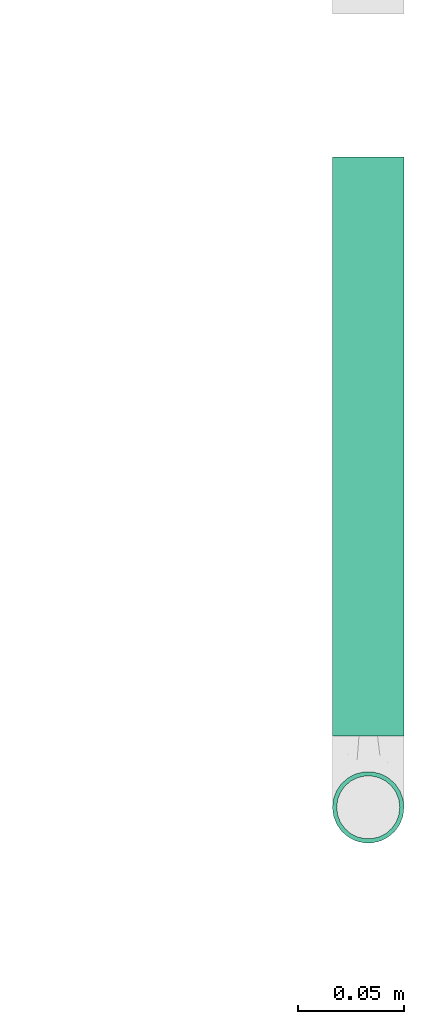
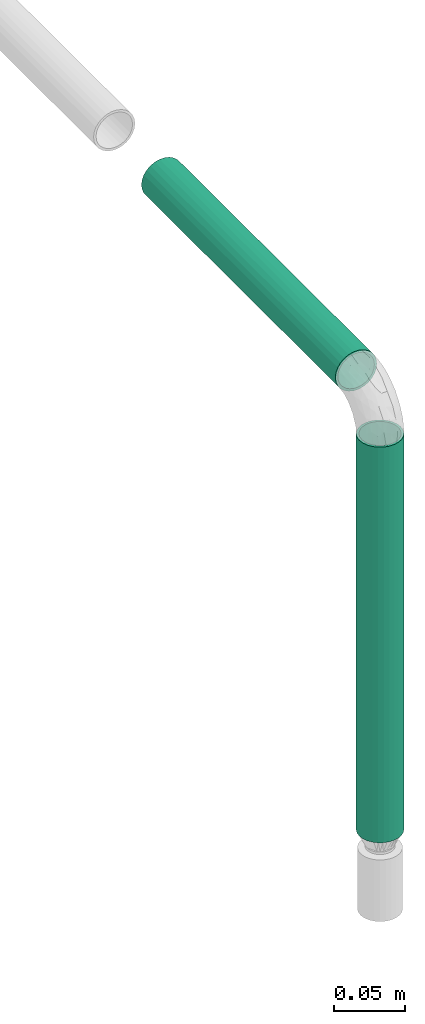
# One storey, part 5 of 17: 2 flow segments.
"""IFC2X3 building model written with IfcOpenShell, lengths in millimetres."""

from ifc_helpers import new_model, entity, si_unit, converted_unit, derived_unit, direction, frame, origin_with_axes, origin_2d_with_axis, place, context, subcontext, project, spatial, hollow_circle, extrude, source, transform, mapped, type_object, element, save


model = new_model("IFC2X3")

# Units and contexts
model_context = context("Model", 3, precision=0.01, world=frame((0.0, 4.29681676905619e-09, 0.0)), true_north=direction((4.01073788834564e-13, 1.0)))
plan_context = context("Plan", 3, precision=0.01, world=frame((0.0, 4.29681676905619e-09, 0.0)), true_north=direction((4.01073788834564e-13, 1.0)))
body_context = subcontext(model_context, "Body", "Model", "MODEL_VIEW")
ifc_project = project(units=[converted_unit("PLANEANGLEUNIT", "DEGREE", entity("IfcPositiveLengthMeasure", 0.0174532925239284), si_unit("PLANEANGLEUNIT", "RADIAN"), dimensions=[0, 0, 0, 0, 0, 0, 0]), si_unit("AREAUNIT", "SQUARE_METRE"), si_unit("LENGTHUNIT", "METRE", prefix="MILLI"), si_unit("MASSUNIT", "GRAM", prefix="KILO"), si_unit("POWERUNIT", "WATT"), si_unit("PRESSUREUNIT", "PASCAL", prefix="KILO"), si_unit("FORCEUNIT", "NEWTON", prefix="KILO"), si_unit("ELECTRICVOLTAGEUNIT", "VOLT"), si_unit("ELECTRICCURRENTUNIT", "AMPERE"), si_unit("THERMODYNAMICTEMPERATUREUNIT", "DEGREE_CELSIUS"), si_unit("TIMEUNIT", "SECOND"), si_unit("VOLUMEUNIT", "CUBIC_METRE"), derived_unit("LINEARVELOCITYUNIT", [(si_unit("LENGTHUNIT", "METRE"), 1), (si_unit("TIMEUNIT", "SECOND"), -1)]), derived_unit("VOLUMETRICFLOWRATEUNIT", [(si_unit("VOLUMEUNIT", "CUBIC_METRE"), 1), (si_unit("TIMEUNIT", "SECOND"), -1)]), derived_unit("THERMALTRANSMITTANCEUNIT", [(si_unit("POWERUNIT", "WATT"), 1), (si_unit("THERMODYNAMICTEMPERATUREUNIT", "KELVIN"), -1), (si_unit("AREAUNIT", "SQUARE_METRE"), -1)]), derived_unit("SOUNDPRESSUREUNIT", [(si_unit("PRESSUREUNIT", "PASCAL"), 1)])], contexts=[model_context, plan_context])

# Site, building, storey
site_placement = place(None, frame((0.0, -4.29681676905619e-09, 0.0), z_axis=(0.0, 0.0, 1.0), x_axis=(1.0, 0.0, 0.0)))
site = spatial("IfcSite", under=ifc_project, at=site_placement, CompositionType="ELEMENT")
building_placement = place(site_placement, frame((0.0, 4.29681676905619e-09, 0.0), z_axis=(0.0, 0.0, 1.0), x_axis=(1.0, 0.0, 0.0)))
building = spatial("IfcBuilding", under=site, at=building_placement, Name="mc-building", CompositionType="ELEMENT")
storey_placement = place(building_placement, frame((0.0, 0.0, 204000.0), z_axis=(0.0, 0.0, 1.0), x_axis=(1.0, 0.0, 0.0)))
storey = spatial("IfcBuildingStorey", under=building, at=storey_placement, Name="Nivå D", CompositionType="ELEMENT", Elevation=204000.0)

# Flow segments
pipe_segment_type = type_object("IfcPipeSegmentType", Name="Stålrør normaltykke", PredefinedType="RIGIDSEGMENT")
shared_shape_1 = source(origin_with_axes(), body_context, "Body", "SweptSolid", [
    extrude(hollow_circle(Radius=16.9, WallThickness=2.0, at=origin_2d_with_axis()), frame((0.0, 0.0, 0.0), z_axis=(1.0, 0.0, 0.0), x_axis=(0.0, 1.0, 0.0)), (0.0, 0.0, 1.0), 340.8),
])
flow_segment_1_placement = place(storey_placement, frame((602552.91449, 404050.01942, 2415.448), z_axis=(0.0, 1.0, 0.0), x_axis=(0.0, 0.0, 1.0)))
element("IfcFlowSegment", 1, at=flow_segment_1_placement, inside=storey, type_object=pipe_segment_type, Name="Stålrør normaltykke", context=body_context, shape_type="MappedRepresentation", body=[
    mapped(shared_shape_1, transform((0.0, 0.0, 0.0), scale=1.0)),
])
shared_shape_2 = source(origin_with_axes(), body_context, "Body", "SweptSolid", [
    extrude(hollow_circle(Radius=16.9, WallThickness=2.0, at=origin_2d_with_axis()), frame((0.0, 0.0, 0.0), z_axis=(1.0, 0.0, 0.0), x_axis=(0.0, 1.0, 0.0)), (0.0, 0.0, 1.0), 273.6),
])
flow_segment_2_placement = place(storey_placement, frame((602552.91449, 404083.81942, 2790.0), z_axis=(0.0, 0.0, 1.0), x_axis=(0.0, 1.0, 0.0)))
element("IfcFlowSegment", 2, at=flow_segment_2_placement, inside=storey, type_object=pipe_segment_type, Name="Stålrør normaltykke", context=body_context, shape_type="MappedRepresentation", body=[
    mapped(shared_shape_2, transform((0.0, 0.0, 0.0), scale=1.0)),
])

save(model, "model.ifc")
